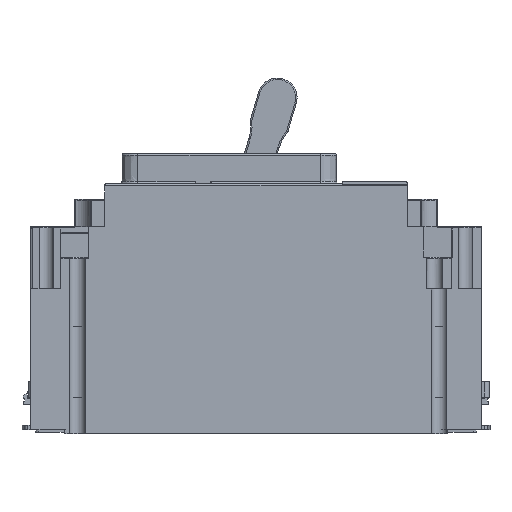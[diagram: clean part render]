
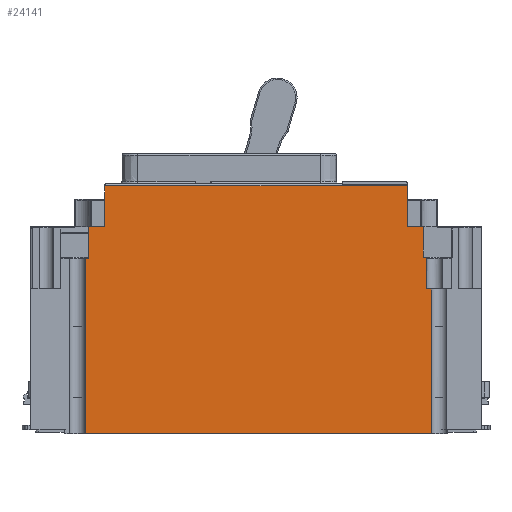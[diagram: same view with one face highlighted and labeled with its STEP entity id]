
A CAD part, left-side view. The second image highlights one B-rep face of the part: STEP entity #24141.
In plain terms, the highlighted planar face has unit normal (-1, 0, 0).
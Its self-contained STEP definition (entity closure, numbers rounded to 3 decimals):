
#596=DIRECTION('',(0.,0.,1.));
#597=VECTOR('',#596,14.1);
#598=CARTESIAN_POINT('',(0.,28.42,71.3));
#599=LINE('',#598,#597);
#883=DIRECTION('',(0.,1.,0.));
#884=VECTOR('',#883,1.575);
#885=CARTESIAN_POINT('',(0.,20.188,49.9));
#886=LINE('',#885,#884);
#1175=DIRECTION('',(0.,1.,0.));
#1176=VECTOR('',#1175,5.5);
#1177=CARTESIAN_POINT('',(0.,22.92,71.3));
#1178=LINE('',#1177,#1176);
#1487=DIRECTION('',(0.,1.,0.));
#1488=VECTOR('',#1487,0.756);
#1489=CARTESIAN_POINT('',(0.,22.164,60.9));
#1490=LINE('',#1489,#1488);
#1900=DIRECTION('',(0.,-1.,0.));
#1901=VECTOR('',#1900,1.157);
#1902=CARTESIAN_POINT('',(0.,139.357,60.5));
#1903=LINE('',#1902,#1901);
#1904=DIRECTION('',(0.,-1.,0.));
#1905=VECTOR('',#1904,104.28);
#1906=CARTESIAN_POINT('',(0.,132.7,85.4));
#1907=LINE('',#1906,#1905);
#1908=DIRECTION('',(0.,0.,1.));
#1909=VECTOR('',#1908,10.4);
#1910=CARTESIAN_POINT('',(0.,22.92,60.9));
#1911=LINE('',#1910,#1909);
#1912=CARTESIAN_POINT('',(0.,21.763,
60.5));
#1913=CARTESIAN_POINT('',(0.,21.763,
60.554));
#1914=CARTESIAN_POINT('',(0.,21.783,
60.655));
#1915=CARTESIAN_POINT('',(0.,21.873,
60.791));
#1916=CARTESIAN_POINT('',(0.,22.009,
60.88));
#1917=CARTESIAN_POINT('',(0.,22.109,
60.9));
#1918=CARTESIAN_POINT('',(0.,22.164,60.9));
#1920=DIRECTION('',(0.,0.,1.));
#1921=VECTOR('',#1920,10.6);
#1922=CARTESIAN_POINT('',(0.,21.763,49.9));
#1923=LINE('',#1922,#1921);
#1924=DIRECTION('',(0.,0.,1.));
#1925=VECTOR('',#1924,49.9);
#1926=CARTESIAN_POINT('',(0.,20.188,0.));
#1927=LINE('',#1926,#1925);
#1928=DIRECTION('',(0.,1.,0.));
#1929=VECTOR('',#1928,119.169);
#1930=CARTESIAN_POINT('',(0.,20.188,0.));
#1931=LINE('',#1930,#1929);
#1932=DIRECTION('',(0.,0.,1.));
#1933=VECTOR('',#1932,60.5);
#1934=CARTESIAN_POINT('',(0.,139.357,0.));
#1935=LINE('',#1934,#1933);
#1936=DIRECTION('',(0.,0.,-1.));
#1937=VECTOR('',#1936,10.8);
#1938=CARTESIAN_POINT('',(0.,138.2,71.3));
#1939=LINE('',#1938,#1937);
#2058=DIRECTION('',(0.,1.,0.));
#2059=VECTOR('',#2058,5.5);
#2060=CARTESIAN_POINT('',(0.,132.7,71.3));
#2061=LINE('',#2060,#2059);
#6367=DIRECTION('',(0.,0.,-1.));
#6368=VECTOR('',#6367,14.1);
#6369=CARTESIAN_POINT('',(0.,132.7,85.4));
#6370=LINE('',#6369,#6368);
#17548=CARTESIAN_POINT('',(0.,22.92,71.3));
#17549=CARTESIAN_POINT('',(0.,28.42,71.3));
#17550=VERTEX_POINT('',#17548);
#17551=VERTEX_POINT('',#17549);
#17563=CARTESIAN_POINT('',(0.,132.7,71.3));
#17565=VERTEX_POINT('',#17563);
#17574=CARTESIAN_POINT('',(0.,138.2,71.3));
#17575=VERTEX_POINT('',#17574);
#21455=CARTESIAN_POINT('',(0.,20.188,0.));
#21456=CARTESIAN_POINT('',(0.,20.188,49.9));
#21457=VERTEX_POINT('',#21455);
#21458=VERTEX_POINT('',#21456);
#21489=CARTESIAN_POINT('',(0.,139.357,0.));
#21490=VERTEX_POINT('',#21489);
#21584=CARTESIAN_POINT('',(0.,21.763,49.9));
#21586=VERTEX_POINT('',#21584);
#21594=CARTESIAN_POINT('',(0.,22.92,60.9));
#21595=VERTEX_POINT('',#21594);
#21665=CARTESIAN_POINT('',(0.,28.42,85.4));
#21667=VERTEX_POINT('',#21665);
#21668=CARTESIAN_POINT('',(0.,132.7,85.4));
#21669=VERTEX_POINT('',#21668);
#21806=CARTESIAN_POINT('',(0.,139.357,60.5));
#21807=CARTESIAN_POINT('',(0.,138.2,60.5));
#21808=VERTEX_POINT('',#21806);
#21809=VERTEX_POINT('',#21807);
#22009=CARTESIAN_POINT('',(0.,22.164,60.9));
#22011=VERTEX_POINT('',#22009);
#22012=CARTESIAN_POINT('',(0.,21.763,60.5));
#22014=VERTEX_POINT('',#22012);
#24112=CARTESIAN_POINT('',(0.,161.1,0.));
#24113=DIRECTION('',(-1.,0.,0.));
#24114=DIRECTION('',(0.,-1.,0.));
#24115=AXIS2_PLACEMENT_3D('',#24112,#24113,#24114);
#24116=PLANE('',#24115);
#24117=ORIENTED_EDGE('',*,*,#24103,.T.);
#24119=ORIENTED_EDGE('',*,*,#24118,.F.);
#24121=ORIENTED_EDGE('',*,*,#24120,.F.);
#24123=ORIENTED_EDGE('',*,*,#24122,.F.);
#24125=ORIENTED_EDGE('',*,*,#24124,.T.);
#24126=ORIENTED_EDGE('',*,*,#22801,.F.);
#24127=ORIENTED_EDGE('',*,*,#23355,.F.);
#24129=ORIENTED_EDGE('',*,*,#24128,.F.);
#24130=ORIENTED_EDGE('',*,*,#23794,.F.);
#24132=ORIENTED_EDGE('',*,*,#24131,.F.);
#24134=ORIENTED_EDGE('',*,*,#24133,.F.);
#24135=ORIENTED_EDGE('',*,*,#23113,.F.);
#24136=ORIENTED_EDGE('',*,*,#23883,.F.);
#24137=ORIENTED_EDGE('',*,*,#23896,.T.);
#24138=ORIENTED_EDGE('',*,*,#24052,.T.);
#24139=EDGE_LOOP('',(#24117,#24119,#24121,#24123,#24125,#24126,#24127,#24129,
#24130,#24132,#24134,#24135,#24136,#24137,#24138));
#24140=FACE_OUTER_BOUND('',#24139,.F.);
#24141=ADVANCED_FACE('',(#24140),#24116,.T.);
#1919=B_SPLINE_CURVE_WITH_KNOTS('',3,(#1912,#1913,#1914,#1915,#1916,#1917,
#1918),.UNSPECIFIED.,.F.,.F.,(4,1,1,1,4),(0.,0.25,0.5,0.75,1.),
.UNSPECIFIED.);
#22801=EDGE_CURVE('',#17551,#21667,#599,.T.);
#23113=EDGE_CURVE('',#21458,#21586,#886,.T.);
#23355=EDGE_CURVE('',#17550,#17551,#1178,.T.);
#23794=EDGE_CURVE('',#22011,#21595,#1490,.T.);
#23883=EDGE_CURVE('',#21457,#21458,#1927,.T.);
#23896=EDGE_CURVE('',#21457,#21490,#1931,.T.);
#24052=EDGE_CURVE('',#21490,#21808,#1935,.T.);
#24103=EDGE_CURVE('',#21808,#21809,#1903,.T.);
#24118=EDGE_CURVE('',#17575,#21809,#1939,.T.);
#24120=EDGE_CURVE('',#17565,#17575,#2061,.T.);
#24122=EDGE_CURVE('',#21669,#17565,#6370,.T.);
#24124=EDGE_CURVE('',#21669,#21667,#1907,.T.);
#24128=EDGE_CURVE('',#21595,#17550,#1911,.T.);
#24131=EDGE_CURVE('',#22014,#22011,#1919,.T.);
#24133=EDGE_CURVE('',#21586,#22014,#1923,.T.);
